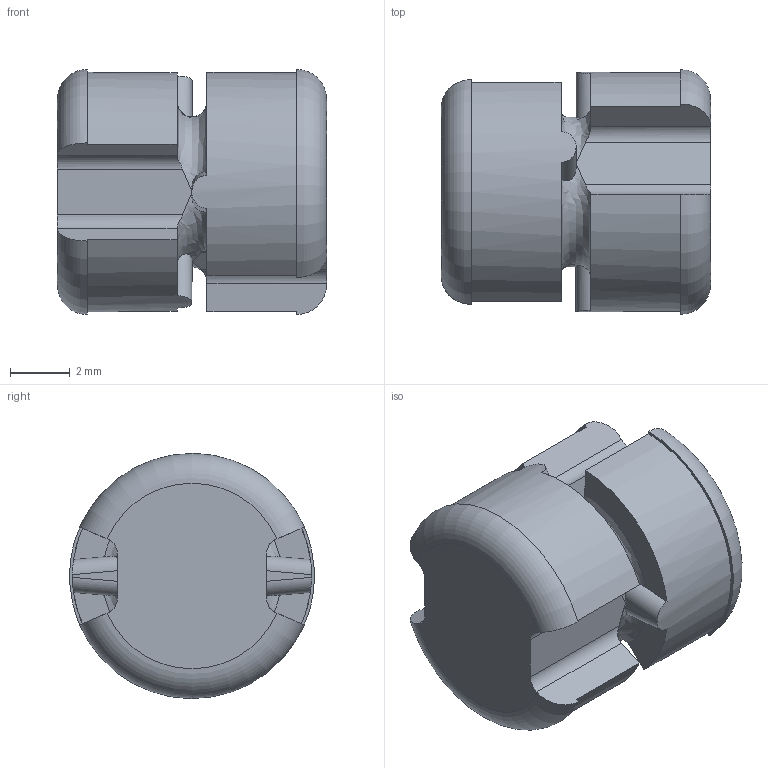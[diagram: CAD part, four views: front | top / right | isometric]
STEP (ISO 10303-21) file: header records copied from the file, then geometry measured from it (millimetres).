
FILE_DESCRIPTION((''),'2;1');
FILE_NAME('C:\Uebbing\PARAMETERKETTEN\KOLIBRI\Kol_30_080_0\ELTOLA30.stp','2011-11-02T12:00:05',('Uebbing'),(''),'Autodesk Inventor 10','Autodesk Inventor 10','');
FILE_SCHEMA(('AUTOMOTIVE_DESIGN { 1 0 10303 214 1 1 1 1 }'));
Length unit declared in the file: millimetre
Products named in the file (1): ELTOLA30
Bounding box: 9 x 8.19 x 8.2 mm (x, y, z)
Volume: 360.9 mm3; surface area: 357.6 mm2
Topology: 1 solids, 1 shells, 58 faces, 164 edges, 108 vertices
Faces by surface type: plane 30, cylinder 20, torus 4, bspline 4
Entity records: 2583 total; most frequent: CARTESIAN_POINT 1095, ORIENTED_EDGE 328, DIRECTION 290, EDGE_CURVE 164, AXIS2_PLACEMENT_3D 111, VERTEX_POINT 108, VECTOR 68, LINE 68
